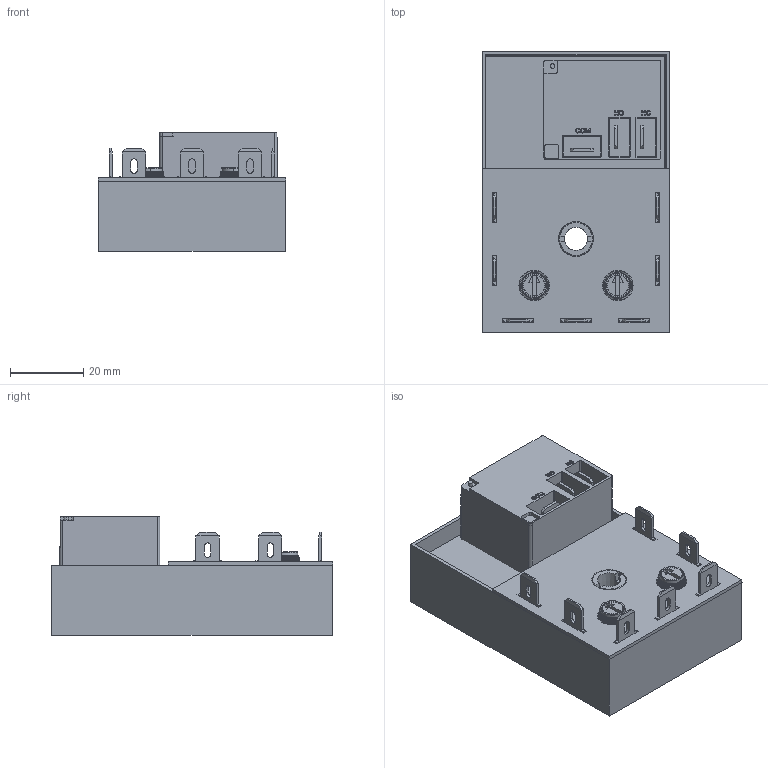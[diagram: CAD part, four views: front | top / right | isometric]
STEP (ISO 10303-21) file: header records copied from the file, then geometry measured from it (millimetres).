
FILE_DESCRIPTION(('FreeCAD Model'),'2;1');
FILE_NAME('Open CASCADE Shape Model','2022-07-27T17:00:59',('Author'),( ''),'Open CASCADE STEP processor 7.5','FreeCAD','Unknown');
FILE_SCHEMA(('AUTOMOTIVE_DESIGN { 1 0 10303 214 1 1 1 1 }'));
Length unit declared in the file: millimetre
Products named in the file (16): THR4; Assem; THR4M006; THR4M007; Seal; PCB_299-1000-332_REV_A_PCB; SpacerPot; SpacerPot001; Spade_Terminal_1113; Spade_Terminal_1114; Spade_Terminal_1115; Spade_Terminal_1116; Spade_Terminal_1117; Spade_Terminal_1118; Spade_Terminal_1119; Power_Relay
Assembly tree (15 placements, depth 3):
  THR4
    Assem
      THR4M006
      THR4M007
      Seal
    PCB_299-1000-332_REV_A_PCB
      SpacerPot
      SpacerPot001
      Spade_Terminal_1113
      Spade_Terminal_1114
      Spade_Terminal_1115
      Spade_Terminal_1116
      Spade_Terminal_1117
      Spade_Terminal_1118
      Spade_Terminal_1119
      Power_Relay
Bounding box: 51.31 x 76.96 x 32.46 mm (x, y, z)
Volume: 81050.1 mm3; surface area: 45452.9 mm2
Topology: 11 solids, 27 shells, 2263 faces, 14916 edges, 39158 vertices
Faces by surface type: plane 1792, bspline 322, cylinder 111, cone 14, torus 12, sphere 12
Full cylindrical faces by diameter (mm): 0.508 x6, 7 x2, 9.6 x2
Entity records: 274207 total; most frequent: CARTESIAN_POINT 83307, DIRECTION 30227, LINE 23979, VECTOR 23979, ORIENTED_EDGE 12160, PCURVE 12160, DEFINITIONAL_REPRESENTATION 12160, GEOMETRIC_CURVE_SET 8814
